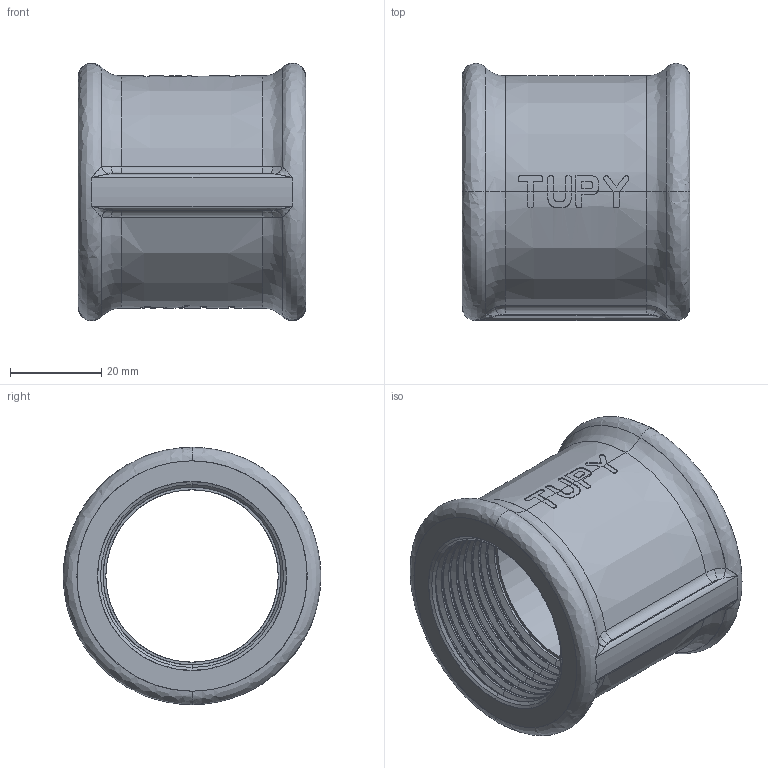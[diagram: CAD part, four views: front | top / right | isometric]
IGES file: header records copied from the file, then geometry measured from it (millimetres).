
Start section: SolidWorks IGES file using analytic representation for surfaces
Global section: file name: C:\Users\Joel Rosa\Desktop\Tubulação\12-36-OK\12-36-008.IGS; native system: SolidWorks 2011; preprocessor: SolidWorks 2011; author: Joel Rosa; date: 131216.202253; units: millimetre
Bounding box: 50 x 56.47 x 56.5 mm (x, y, z)
Surface area: 20401.4 mm2 (no closed solid volume)
Topology: 0 solids, 0 shells, 315 faces, 2693 edges, 2693 vertices
Faces by surface type: bspline 213, revolution 102
